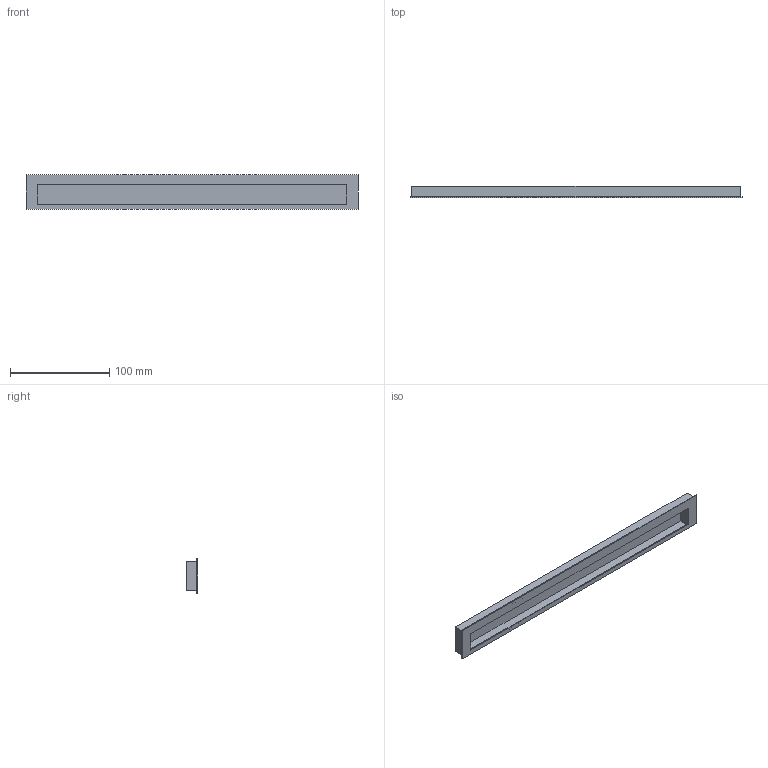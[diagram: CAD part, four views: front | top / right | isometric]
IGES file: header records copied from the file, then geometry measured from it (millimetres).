
Start section: Data from Parasolid IGES Translator 15.0.47, Copyright(c) 2006 Siemens P LM Software. All Rights Reserved.
Global section: file name:  9071082.igs; native system:  By UGS Corp.; preprocessor: XPlus GENERIC/IGES 3.0; author: Noname; organization: Noname; date: 20140122.181009; units: millimetre
Bounding box: 335 x 12 x 35 mm (x, y, z)
Surface area: 44751.1 mm2 (no closed solid volume)
Topology: 0 solids, 0 shells, 24 faces, 108 edges, 106 vertices
Faces by surface type: extrusion 22, revolution 2
